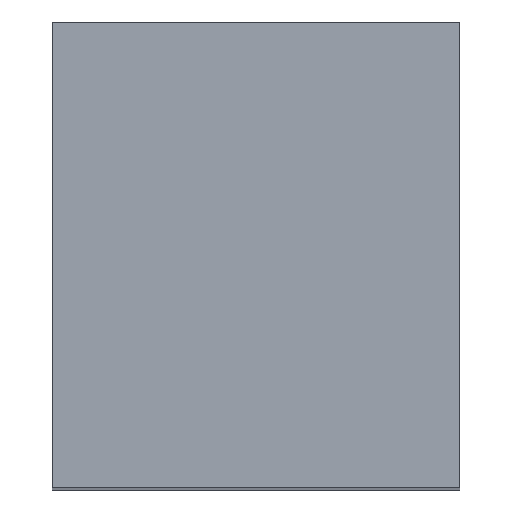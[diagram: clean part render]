
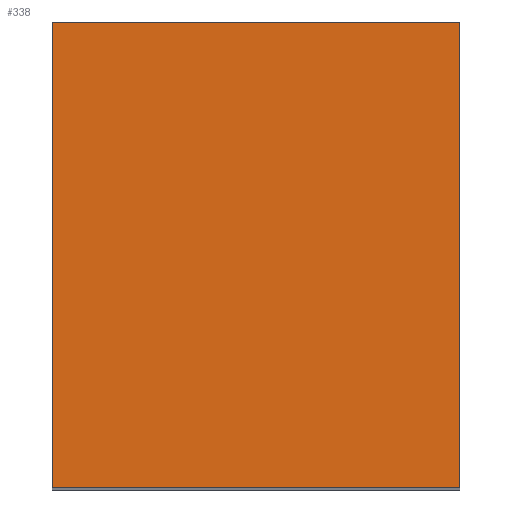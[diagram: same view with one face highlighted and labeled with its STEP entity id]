
A CAD part, top view. The second image highlights one B-rep face of the part: STEP entity #338.
In plain terms, the highlighted planar face has unit normal (0, 0, 1).
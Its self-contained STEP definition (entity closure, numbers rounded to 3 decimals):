
#24 = VERTEX_POINT('',#25);
#25 = CARTESIAN_POINT('',(194.,-16.,187.));
#32 = PLANE('',#33);
#33 = AXIS2_PLACEMENT_3D('',#34,#35,#36);
#34 = CARTESIAN_POINT('',(194.,-16.,104.));
#35 = DIRECTION('',(1.,0.,-0.));
#36 = DIRECTION('',(0.,0.,1.));
#44 = PLANE('',#45);
#45 = AXIS2_PLACEMENT_3D('',#46,#47,#48);
#46 = CARTESIAN_POINT('',(194.,-16.,104.));
#47 = DIRECTION('',(-0.,1.,0.));
#48 = DIRECTION('',(0.,0.,1.));
#85 = VERTEX_POINT('',#86);
#86 = CARTESIAN_POINT('',(194.,16.,187.));
#100 = PLANE('',#101);
#101 = AXIS2_PLACEMENT_3D('',#102,#103,#104);
#102 = CARTESIAN_POINT('',(194.,16.,104.));
#103 = DIRECTION('',(-0.,1.,0.));
#104 = DIRECTION('',(0.,0.,1.));
#112 = EDGE_CURVE('',#24,#85,#113,.T.);
#113 = SURFACE_CURVE('',#114,(#118,#125),.PCURVE_S1.);
#114 = LINE('',#115,#116);
#115 = CARTESIAN_POINT('',(194.,-16.,187.));
#116 = VECTOR('',#117,1.);
#117 = DIRECTION('',(-0.,1.,0.));
#118 = PCURVE('',#32,#119);
#119 = DEFINITIONAL_REPRESENTATION('',(#120),#124);
#120 = LINE('',#121,#122);
#121 = CARTESIAN_POINT('',(83.,0.));
#122 = VECTOR('',#123,1.);
#123 = DIRECTION('',(0.,-1.));
#124 = ( GEOMETRIC_REPRESENTATION_CONTEXT(2) 
PARAMETRIC_REPRESENTATION_CONTEXT() REPRESENTATION_CONTEXT('2D SPACE',''
  ) );
#125 = PCURVE('',#126,#131);
#126 = PLANE('',#127);
#127 = AXIS2_PLACEMENT_3D('',#128,#129,#130);
#128 = CARTESIAN_POINT('',(194.,-16.,187.));
#129 = DIRECTION('',(0.,0.,1.));
#130 = DIRECTION('',(1.,0.,-0.));
#131 = DEFINITIONAL_REPRESENTATION('',(#132),#136);
#132 = LINE('',#133,#134);
#133 = CARTESIAN_POINT('',(0.,0.));
#134 = VECTOR('',#135,1.);
#135 = DIRECTION('',(0.,1.));
#136 = ( GEOMETRIC_REPRESENTATION_CONTEXT(2) 
PARAMETRIC_REPRESENTATION_CONTEXT() REPRESENTATION_CONTEXT('2D SPACE',''
  ) );
#144 = VERTEX_POINT('',#145);
#145 = CARTESIAN_POINT('',(222.,-16.,187.));
#152 = PLANE('',#153);
#153 = AXIS2_PLACEMENT_3D('',#154,#155,#156);
#154 = CARTESIAN_POINT('',(222.,-16.,104.));
#155 = DIRECTION('',(1.,0.,-0.));
#156 = DIRECTION('',(0.,0.,1.));
#195 = VERTEX_POINT('',#196);
#196 = CARTESIAN_POINT('',(222.,16.,187.));
#217 = EDGE_CURVE('',#144,#195,#218,.T.);
#218 = SURFACE_CURVE('',#219,(#223,#230),.PCURVE_S1.);
#219 = LINE('',#220,#221);
#220 = CARTESIAN_POINT('',(222.,-16.,187.));
#221 = VECTOR('',#222,1.);
#222 = DIRECTION('',(-0.,1.,0.));
#223 = PCURVE('',#152,#224);
#224 = DEFINITIONAL_REPRESENTATION('',(#225),#229);
#225 = LINE('',#226,#227);
#226 = CARTESIAN_POINT('',(83.,0.));
#227 = VECTOR('',#228,1.);
#228 = DIRECTION('',(0.,-1.));
#229 = ( GEOMETRIC_REPRESENTATION_CONTEXT(2) 
PARAMETRIC_REPRESENTATION_CONTEXT() REPRESENTATION_CONTEXT('2D SPACE',''
  ) );
#230 = PCURVE('',#126,#231);
#231 = DEFINITIONAL_REPRESENTATION('',(#232),#236);
#232 = LINE('',#233,#234);
#233 = CARTESIAN_POINT('',(28.,0.));
#234 = VECTOR('',#235,1.);
#235 = DIRECTION('',(0.,1.));
#236 = ( GEOMETRIC_REPRESENTATION_CONTEXT(2) 
PARAMETRIC_REPRESENTATION_CONTEXT() REPRESENTATION_CONTEXT('2D SPACE',''
  ) );
#263 = EDGE_CURVE('',#24,#144,#264,.T.);
#264 = SURFACE_CURVE('',#265,(#269,#276),.PCURVE_S1.);
#265 = LINE('',#266,#267);
#266 = CARTESIAN_POINT('',(194.,-16.,187.));
#267 = VECTOR('',#268,1.);
#268 = DIRECTION('',(1.,0.,-0.));
#269 = PCURVE('',#44,#270);
#270 = DEFINITIONAL_REPRESENTATION('',(#271),#275);
#271 = LINE('',#272,#273);
#272 = CARTESIAN_POINT('',(83.,0.));
#273 = VECTOR('',#274,1.);
#274 = DIRECTION('',(0.,1.));
#275 = ( GEOMETRIC_REPRESENTATION_CONTEXT(2) 
PARAMETRIC_REPRESENTATION_CONTEXT() REPRESENTATION_CONTEXT('2D SPACE',''
  ) );
#276 = PCURVE('',#126,#277);
#277 = DEFINITIONAL_REPRESENTATION('',(#278),#282);
#278 = LINE('',#279,#280);
#279 = CARTESIAN_POINT('',(0.,0.));
#280 = VECTOR('',#281,1.);
#281 = DIRECTION('',(1.,0.));
#282 = ( GEOMETRIC_REPRESENTATION_CONTEXT(2) 
PARAMETRIC_REPRESENTATION_CONTEXT() REPRESENTATION_CONTEXT('2D SPACE',''
  ) );
#310 = EDGE_CURVE('',#85,#195,#311,.T.);
#311 = SURFACE_CURVE('',#312,(#316,#323),.PCURVE_S1.);
#312 = LINE('',#313,#314);
#313 = CARTESIAN_POINT('',(194.,16.,187.));
#314 = VECTOR('',#315,1.);
#315 = DIRECTION('',(1.,0.,-0.));
#316 = PCURVE('',#100,#317);
#317 = DEFINITIONAL_REPRESENTATION('',(#318),#322);
#318 = LINE('',#319,#320);
#319 = CARTESIAN_POINT('',(83.,0.));
#320 = VECTOR('',#321,1.);
#321 = DIRECTION('',(0.,1.));
#322 = ( GEOMETRIC_REPRESENTATION_CONTEXT(2) 
PARAMETRIC_REPRESENTATION_CONTEXT() REPRESENTATION_CONTEXT('2D SPACE',''
  ) );
#323 = PCURVE('',#126,#324);
#324 = DEFINITIONAL_REPRESENTATION('',(#325),#329);
#325 = LINE('',#326,#327);
#326 = CARTESIAN_POINT('',(0.,32.));
#327 = VECTOR('',#328,1.);
#328 = DIRECTION('',(1.,0.));
#329 = ( GEOMETRIC_REPRESENTATION_CONTEXT(2) 
PARAMETRIC_REPRESENTATION_CONTEXT() REPRESENTATION_CONTEXT('2D SPACE',''
  ) );
#338 = ADVANCED_FACE('',(#339),#126,.T.);
#339 = FACE_BOUND('',#340,.T.);
#340 = EDGE_LOOP('',(#341,#342,#343,#344));
#341 = ORIENTED_EDGE('',*,*,#112,.F.);
#342 = ORIENTED_EDGE('',*,*,#263,.T.);
#343 = ORIENTED_EDGE('',*,*,#217,.T.);
#344 = ORIENTED_EDGE('',*,*,#310,.F.);
